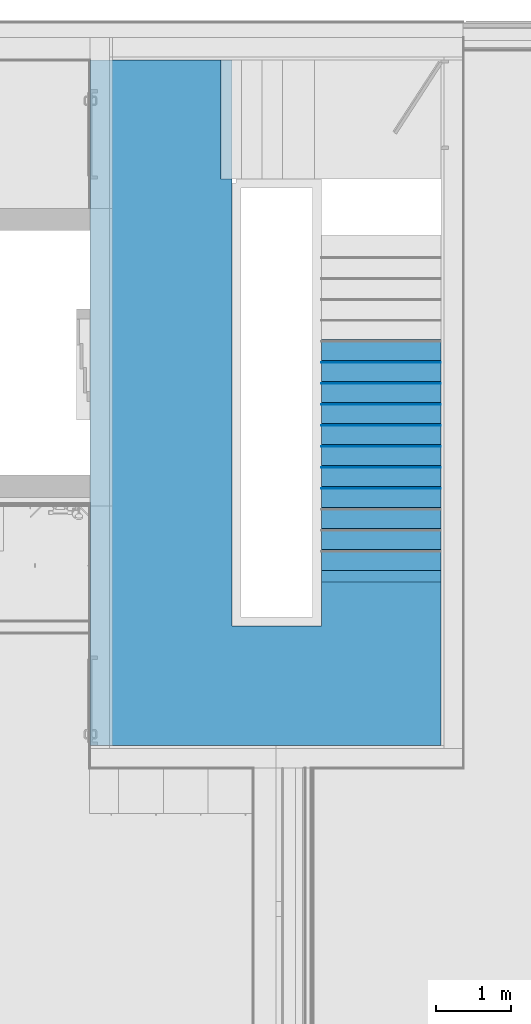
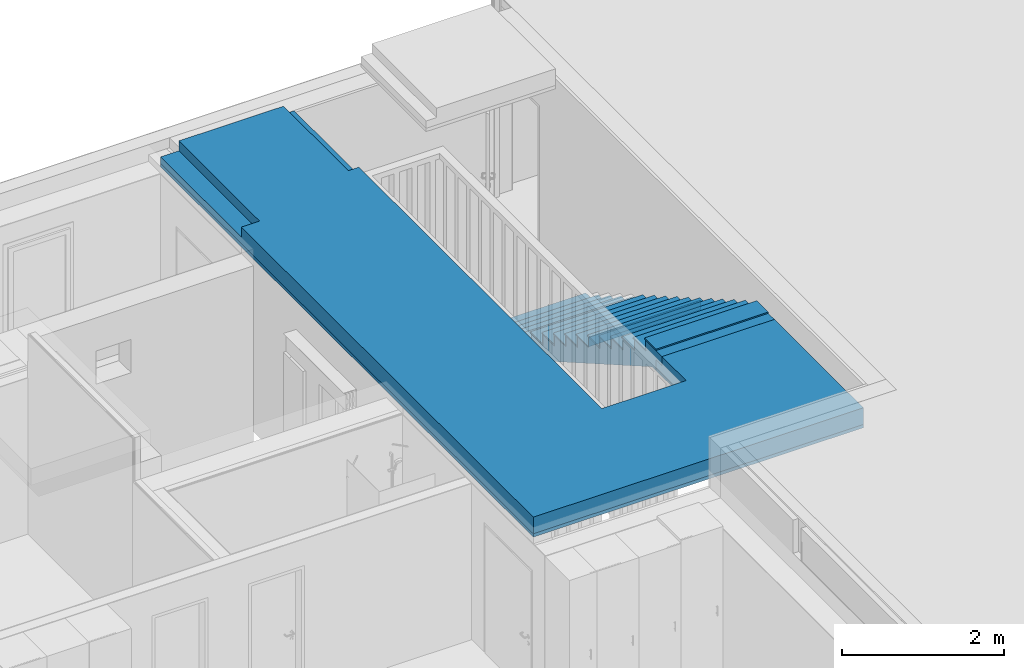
# One storey, part 13 of 34: 21 building element parts, 2 elements without a shape of their own.
"""IFC4 building model written with IfcOpenShell, lengths in millimetres."""

from ifc_helpers import new_model, entity, si_unit, converted_unit, derived_unit, direction, frame, origin_with_axes, place, context, subcontext, project, spatial, polygons, material, type_object, element, aggregate, save


model = new_model("IFC4")

# Units and contexts
model_context = context("Model", 3, precision=0.01, world=origin_with_axes(), true_north=direction((0.0, 1.0)))
body_context = subcontext(model_context, "Body", "Model", "MODEL_VIEW")
ifc_project = project(units=[si_unit("LENGTHUNIT", "METRE", prefix="MILLI"), si_unit("AREAUNIT", "SQUARE_METRE"), si_unit("VOLUMEUNIT", "CUBIC_METRE"), converted_unit("PLANEANGLEUNIT", "DEGREE", entity("IfcPlaneAngleMeasure", 0.0174532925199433), si_unit("PLANEANGLEUNIT", "RADIAN"), dimensions=[0, 0, 0, 0, 0, 0, 0]), converted_unit("TIMEUNIT", "Year", entity("IfcTimeMeasure", 31557600.0), si_unit("TIMEUNIT", "SECOND"), dimensions=[0, 0, 1, 0, 0, 0, 0]), si_unit("MASSUNIT", "GRAM", prefix="KILO"), si_unit("THERMODYNAMICTEMPERATUREUNIT", "DEGREE_CELSIUS"), si_unit("LUMINOUSINTENSITYUNIT", "LUMEN"), si_unit("ENERGYUNIT", "JOULE", prefix="MEGA"), derived_unit("THERMALCONDUCTANCEUNIT", [(si_unit("POWERUNIT", "WATT"), 1), (si_unit("LENGTHUNIT", "METRE"), -1), (si_unit("THERMODYNAMICTEMPERATUREUNIT", "KELVIN"), -1)]), derived_unit("SPECIFICHEATCAPACITYUNIT", [(si_unit("ENERGYUNIT", "JOULE"), 1), (si_unit("MASSUNIT", "GRAM", prefix="KILO"), -1), (si_unit("THERMODYNAMICTEMPERATUREUNIT", "KELVIN"), -1)]), derived_unit("MASSDENSITYUNIT", [(si_unit("MASSUNIT", "GRAM", prefix="KILO"), 1), (si_unit("VOLUMEUNIT", "CUBIC_METRE"), -1)])], contexts=[model_context])

# Site, building, storey
site_placement = place(None, origin_with_axes())
site = spatial("IfcSite", under=ifc_project, at=site_placement, Name="Gelände", CompositionType="ELEMENT")
building_placement = place(site_placement, origin_with_axes())
building = spatial("IfcBuilding", under=site, at=building_placement, Name="Gebäude", CompositionType="ELEMENT")
storey_placement = place(building_placement, frame((0.0, 0.0, 5799.999999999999), z_axis=(0.0, 0.0, 1.0), x_axis=(1.0, 0.0, 0.0)))
storey = spatial("IfcBuildingStorey", under=building, at=storey_placement, Name="2.OG", CompositionType="ELEMENT", Elevation=5800.0)

# Stair, building element parts
stair_type = type_object("IfcStairType", Name="Treppentyp", PredefinedType="NOTDEFINED")
stair_placement = place(storey_placement, frame((20128.99743772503, 35092.59728131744, 650.0000000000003), z_axis=(0.0, 0.0, 1.0), x_axis=(1.0, 0.0, 0.0)))
stair = element("IfcStair", 1, at=stair_placement, inside=storey, type_object=stair_type, Name="Treppe-001", PredefinedType="NOTDEFINED")
ifc_material_1 = material(Name="Beton bewehrt")
building_element_part_1_placement = place(stair_placement, origin_with_axes())
building_element_part_1 = element("IfcBuildingElementPart", 2, at=building_element_part_1_placement, material=ifc_material_1, Name="Beton bewehrt", PredefinedType="NOTDEFINED", context=body_context, shape_type="Tessellation", body=[
    polygons([(0.0, -4500.000000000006, 2260.0), (0.0, -4500.000000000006, 2100.0), (0.0, -4408.961873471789, 2100.0), (0.0, -4406.250000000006, 2098.444389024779), (0.0, -4312.500000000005, 2044.666611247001), (0.0, -4218.750000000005, 1990.888833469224), (0.0, -4125.000000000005, 1937.111055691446), (0.0, -4031.250000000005, 1883.333277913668), (0.0, -3937.500000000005, 1829.555500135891), (0.0, -3843.750000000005, 1775.777722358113), (0.0, -3750.000000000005, 1721.999944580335), (0.0, -3656.250000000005, 1668.222166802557), (0.0, -3562.500000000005, 1614.44438902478), (0.0, -3468.750000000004, 1560.666611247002), (0.0, -3375.000000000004, 1506.888833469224), (0.0, -3281.250000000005, 1453.111055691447), (0.0, -3187.500000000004, 1399.333277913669), (0.0, -3093.750000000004, 1345.555500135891), (0.0, -3000.000000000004, 1291.777722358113), (0.0, -2906.250000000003, 1237.999944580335), (0.0, -2812.500000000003, 1184.222166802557), (0.0, -2718.750000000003, 1130.444389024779), (0.0, -2625.000000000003, 1076.666611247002), (0.0, -2531.250000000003, 1022.888833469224), (0.0, -2437.500000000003, 969.1110556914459), (0.0, -2343.750000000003, 915.3332779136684), (0.0, -2250.000000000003, 861.5555001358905), (0.0, -2156.250000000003, 807.7777223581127), (0.0, -2062.500000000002, 753.999944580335), (0.0, -1968.750000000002, 700.222166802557), (0.0, -1875.000000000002, 646.4443890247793), (0.0, -1781.250000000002, 592.6666112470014), (0.0, -1687.500000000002, 538.8888334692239), (0.0, -1593.750000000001, 485.1110556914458), (0.0, -1500.000000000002, 431.333277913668), (0.0, -1406.250000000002, 377.5555001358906), (0.0, -1312.500000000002, 323.7777223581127), (0.0, -1218.750000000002, 269.9999445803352), (0.0, -1125.000000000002, 216.2221668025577), (0.0, -1031.250000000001, 162.4443890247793), (0.0, -937.5000000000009, 108.6666112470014), (0.0, -843.7500000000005, 54.88883346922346), (0.0, -750.0000000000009, 1.111055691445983), (0.0, -656.2500000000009, -52.6667220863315), (0.0, -562.5000000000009, -106.4444998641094), (0.0, -468.7500000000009, -160.2222776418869), (0.0, -375.0, -214.0000554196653), (0.0, -281.25, -267.7778331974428), (0.0, -190.2118734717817, -320.0000000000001), (0.0, -149.99999403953, -320.0000000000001), (0.0, -149.99999403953, -139.9999999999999), (0.0, 5.960469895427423e-06, -139.9999999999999), (0.0, 0.0, -20.00000000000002), (0.0, -311.2500000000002, -20.00000000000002), (0.0, -311.2500000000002, 141.3333333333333), (0.0, -592.5000000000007, 141.3333333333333), (0.0, -592.5000000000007, 302.6666666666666), (0.0, -873.7500000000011, 302.6666666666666), (0.0, -873.7500000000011, 463.9999999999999), (0.0, -1155.000000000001, 463.9999999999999), (0.0, -1155.000000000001, 625.3333333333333), (0.0, -1436.250000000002, 625.3333333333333), (0.0, -1436.250000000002, 786.6666666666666), (0.0, -1717.500000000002, 786.6666666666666), (0.0, -1717.500000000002, 948.0), (0.0, -1998.750000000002, 948.0), (0.0, -1998.750000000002, 1109.333333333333), (0.0, -2280.000000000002, 1109.333333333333), (0.0, -2280.000000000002, 1270.666666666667), (0.0, -2561.250000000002, 1270.666666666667), (0.0, -2561.250000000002, 1432.0), (0.0, -2842.500000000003, 1432.0), (0.0, -2842.500000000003, 1593.333333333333), (0.0, -3123.750000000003, 1593.333333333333), (0.0, -3123.750000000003, 1754.666666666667), (0.0, -3405.000000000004, 1754.666666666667), (0.0, -3405.000000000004, 1916.0), (0.0, -3686.250000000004, 1916.0), (0.0, -3686.250000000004, 2077.333333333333), (0.0, -3967.500000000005, 2077.333333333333), (0.0, -3967.500000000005, 2238.666666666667), (0.0, -4248.750000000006, 2238.666666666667), (0.0, -4248.750000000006, 2400.0), (0.0, -4650.000000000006, 2400.0), (0.0, -4650.000000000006, 2260.0), (-1600.0, -4500.000000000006, 2260.0), (-1600.0, -4500.000000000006, 2100.0), (-1600.0, -4408.961873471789, 2100.0), (-1600.0, -4406.250000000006, 2098.444389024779), (-1600.0, -4312.500000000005, 2044.666611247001), (-1600.0, -4218.750000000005, 1990.888833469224), (-1600.0, -4125.000000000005, 1937.111055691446), (-1600.0, -4031.250000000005, 1883.333277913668), (-1600.0, -3937.500000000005, 1829.555500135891), (-1600.0, -3843.750000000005, 1775.777722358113), (-1600.0, -3750.000000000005, 1721.999944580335), (-1600.0, -3656.250000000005, 1668.222166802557), (-1600.0, -3562.500000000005, 1614.44438902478), (-1600.0, -3468.750000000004, 1560.666611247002), (-1600.0, -3375.000000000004, 1506.888833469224), (-1600.0, -3281.250000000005, 1453.111055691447), (-1600.0, -3187.500000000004, 1399.333277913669), (-1600.0, -3093.750000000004, 1345.555500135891), (-1600.0, -3000.000000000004, 1291.777722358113), (-1600.0, -2906.250000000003, 1237.999944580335), (-1600.0, -2812.500000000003, 1184.222166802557), (-1600.0, -2718.750000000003, 1130.444389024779), (-1600.0, -2625.000000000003, 1076.666611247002), (-1600.0, -2531.250000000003, 1022.888833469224), (-1600.0, -2437.500000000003, 969.1110556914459), (-1600.0, -2343.750000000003, 915.3332779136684), (-1600.0, -2250.000000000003, 861.5555001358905), (-1600.0, -2156.250000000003, 807.7777223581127), (-1600.0, -2062.500000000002, 753.999944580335), (-1600.0, -1968.750000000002, 700.222166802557), (-1600.0, -1875.000000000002, 646.4443890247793), (-1600.0, -1781.250000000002, 592.6666112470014), (-1600.0, -1687.500000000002, 538.8888334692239), (-1600.0, -1593.750000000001, 485.1110556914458), (-1600.0, -1500.000000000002, 431.333277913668), (-1600.0, -1406.250000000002, 377.5555001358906), (-1600.0, -1312.500000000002, 323.7777223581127), (-1600.0, -1218.750000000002, 269.9999445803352), (-1600.0, -1125.000000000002, 216.2221668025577), (-1600.0, -1031.250000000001, 162.4443890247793), (-1600.0, -937.5000000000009, 108.6666112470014), (-1600.0, -843.7500000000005, 54.88883346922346), (-1600.0, -750.0000000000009, 1.111055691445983), (-1600.0, -656.2500000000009, -52.6667220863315), (-1600.0, -562.5000000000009, -106.4444998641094), (-1600.0, -468.7500000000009, -160.2222776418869), (-1600.0, -375.0, -214.0000554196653), (-1600.0, -281.25, -267.7778331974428), (-1600.0, -190.2118734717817, -320.0000000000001), (-1600.0, -149.99999403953, -320.0000000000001), (-1600.0, -149.99999403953, -139.9999999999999), (-1600.0, 5.960469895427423e-06, -139.9999999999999), (-1600.0, 0.0, -20.00000000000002), (-1600.0, -311.2500000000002, -20.00000000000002), (-1600.0, -311.2500000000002, 141.3333333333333), (-1600.0, -592.5000000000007, 141.3333333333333), (-1600.0, -592.5000000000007, 302.6666666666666), (-1600.0, -873.7500000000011, 302.6666666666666), (-1600.0, -873.7500000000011, 463.9999999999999), (-1600.0, -1155.000000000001, 463.9999999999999), (-1600.0, -1155.000000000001, 625.3333333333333), (-1600.0, -1436.250000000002, 625.3333333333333), (-1600.0, -1436.250000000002, 786.6666666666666), (-1600.0, -1717.500000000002, 786.6666666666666), (-1600.0, -1717.500000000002, 948.0), (-1600.0, -1998.750000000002, 948.0), (-1600.0, -1998.750000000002, 1109.333333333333), (-1600.0, -2280.000000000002, 1109.333333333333), (-1600.0, -2280.000000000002, 1270.666666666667), (-1600.0, -2561.250000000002, 1270.666666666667), (-1600.0, -2561.250000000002, 1432.0), (-1600.0, -2842.500000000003, 1432.0), (-1600.0, -2842.500000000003, 1593.333333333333), (-1600.0, -3123.750000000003, 1593.333333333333), (-1600.0, -3123.750000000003, 1754.666666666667), (-1600.0, -3405.000000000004, 1754.666666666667), (-1600.0, -3405.000000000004, 1916.0), (-1600.0, -3686.250000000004, 1916.0), (-1600.0, -3686.250000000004, 2077.333333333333), (-1600.0, -3967.500000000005, 2077.333333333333), (-1600.0, -3967.500000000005, 2238.666666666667), (-1600.0, -4248.750000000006, 2238.666666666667), (-1600.0, -4248.750000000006, 2400.0), (-1600.0, -4650.000000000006, 2400.0), (-1600.0, -4650.000000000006, 2260.0)], [[[1, 2, 3, 4, 5, 6, 7, 8, 9, 10, 11, 12, 13, 14, 15, 16, 17, 18, 19, 20, 21, 22, 23, 24, 25, 26, 27, 28, 29, 30, 31, 32, 33, 34, 35, 36, 37, 38, 39, 40, 41, 42, 43, 44, 45, 46, 47, 48, 49, 50, 51, 52, 53, 54, 55, 56, 57, 58, 59, 60, 61, 62, 63, 64, 65, 66, 67, 68, 69, 70, 71, 72, 73, 74, 75, 76, 77, 78, 79, 80, 81, 82, 83, 84, 85]], [[2, 1, 86, 87]], [[2, 87, 88, 3]], [[88, 89, 4, 3]], [[90, 5, 4, 89]], [[91, 6, 5, 90]], [[92, 7, 6, 91]], [[93, 8, 7, 92]], [[94, 9, 8, 93]], [[95, 10, 9, 94]], [[96, 11, 10, 95]], [[97, 12, 11, 96]], [[98, 13, 12, 97]], [[99, 14, 13, 98]], [[100, 15, 14, 99]], [[101, 16, 15, 100]], [[102, 17, 16, 101]], [[103, 18, 17, 102]], [[104, 19, 18, 103]], [[105, 20, 19, 104]], [[106, 21, 20, 105]], [[107, 22, 21, 106]], [[108, 23, 22, 107]], [[109, 24, 23, 108]], [[110, 25, 24, 109]], [[111, 26, 25, 110]], [[112, 27, 26, 111]], [[113, 28, 27, 112]], [[114, 29, 28, 113]], [[115, 30, 29, 114]], [[116, 31, 30, 115]], [[117, 32, 31, 116]], [[118, 33, 32, 117]], [[119, 34, 33, 118]], [[120, 35, 34, 119]], [[121, 36, 35, 120]], [[122, 37, 36, 121]], [[123, 38, 37, 122]], [[124, 39, 38, 123]], [[125, 40, 39, 124]], [[126, 41, 40, 125]], [[127, 42, 41, 126]], [[128, 43, 42, 127]], [[129, 44, 43, 128]], [[130, 45, 44, 129]], [[131, 46, 45, 130]], [[132, 47, 46, 131]], [[133, 48, 47, 132]], [[134, 49, 48, 133]], [[135, 50, 49, 134]], [[51, 50, 135, 136]], [[137, 52, 51, 136]], [[52, 137, 138, 53]], [[138, 139, 54, 53]], [[140, 55, 54, 139]], [[140, 141, 56, 55]], [[142, 57, 56, 141]], [[142, 143, 58, 57]], [[144, 59, 58, 143]], [[144, 145, 60, 59]], [[146, 61, 60, 145]], [[146, 147, 62, 61]], [[148, 63, 62, 147]], [[148, 149, 64, 63]], [[150, 65, 64, 149]], [[150, 151, 66, 65]], [[152, 67, 66, 151]], [[152, 153, 68, 67]], [[154, 69, 68, 153]], [[154, 155, 70, 69]], [[156, 71, 70, 155]], [[156, 157, 72, 71]], [[158, 73, 72, 157]], [[158, 159, 74, 73]], [[160, 75, 74, 159]], [[160, 161, 76, 75]], [[162, 77, 76, 161]], [[162, 163, 78, 77]], [[164, 79, 78, 163]], [[164, 165, 80, 79]], [[166, 81, 80, 165]], [[166, 167, 82, 81]], [[83, 82, 167, 168]], [[83, 168, 169, 84]], [[170, 85, 84, 169]], [[1, 85, 170, 86]], [[86, 170, 169, 168, 167, 166, 165, 164, 163, 162, 161, 160, 159, 158, 157, 156, 155, 154, 153, 152, 151, 150, 149, 148, 147, 146, 145, 144, 143, 142, 141, 140, 139, 138, 137, 136, 135, 134, 133, 132, 131, 130, 129, 128, 127, 126, 125, 124, 123, 122, 121, 120, 119, 118, 117, 116, 115, 114, 113, 112, 111, 110, 109, 108, 107, 106, 105, 104, 103, 102, 101, 100, 99, 98, 97, 96, 95, 94, 93, 92, 91, 90, 89, 88, 87]]], closed=True),
])
ifc_material_2 = material(Name="Keramik")
building_element_part_2_placement = place(stair_placement, origin_with_axes())
building_element_part_2 = element("IfcBuildingElementPart", 3, at=building_element_part_2_placement, material=ifc_material_2, Name="Keramik", PredefinedType="NOTDEFINED", context=body_context, shape_type="Tessellation", body=[
    polygons([(-1600.000000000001, -1707.500000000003, 948.0000000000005), (-1600.000000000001, -1717.500000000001, 948.0000000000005), (0.0, -1717.500000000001, 948.0000000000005), (0.0, -1707.500000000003, 948.0000000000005), (-1600.000000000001, -1707.500000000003, 806.6666666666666), (-1600.000000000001, -1717.500000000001, 806.6666666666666), (0.0, -1717.500000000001, 806.6666666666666), (0.0, -1707.500000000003, 806.6666666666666)], [[[1, 2, 3, 4]], [[1, 5, 6, 2]], [[2, 6, 7, 3]], [[4, 3, 7, 8]], [[5, 1, 4, 8]], [[6, 5, 8, 7]]], closed=True),
])
building_element_part_3_placement = place(stair_placement, origin_with_axes())
building_element_part_3 = element("IfcBuildingElementPart", 4, at=building_element_part_3_placement, material=ifc_material_2, Name="Keramik", PredefinedType="NOTDEFINED", context=body_context, shape_type="Tessellation", body=[
    polygons([(-1600.000000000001, -1988.750000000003, 1109.333333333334), (-1600.000000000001, -1998.750000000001, 1109.333333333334), (0.0, -1998.750000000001, 1109.333333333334), (0.0, -1988.750000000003, 1109.333333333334), (-1600.000000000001, -1988.750000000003, 968.0), (-1600.000000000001, -1998.750000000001, 968.0), (0.0, -1998.750000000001, 968.0), (0.0, -1988.750000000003, 968.0)], [[[1, 2, 3, 4]], [[1, 5, 6, 2]], [[2, 6, 7, 3]], [[4, 3, 7, 8]], [[5, 1, 4, 8]], [[6, 5, 8, 7]]], closed=True),
])
building_element_part_4_placement = place(stair_placement, origin_with_axes())
building_element_part_4 = element("IfcBuildingElementPart", 5, at=building_element_part_4_placement, material=ifc_material_2, Name="Keramik", PredefinedType="NOTDEFINED", context=body_context, shape_type="Tessellation", body=[
    polygons([(-1600.000000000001, -2270.000000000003, 1270.666666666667), (-1600.000000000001, -2280.000000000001, 1270.666666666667), (0.0, -2280.000000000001, 1270.666666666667), (0.0, -2270.000000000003, 1270.666666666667), (-1600.000000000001, -2270.000000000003, 1129.333333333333), (-1600.000000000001, -2280.000000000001, 1129.333333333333), (0.0, -2280.000000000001, 1129.333333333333), (0.0, -2270.000000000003, 1129.333333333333)], [[[1, 2, 3, 4]], [[1, 5, 6, 2]], [[2, 6, 7, 3]], [[4, 3, 7, 8]], [[5, 1, 4, 8]], [[6, 5, 8, 7]]], closed=True),
])
building_element_part_5_placement = place(stair_placement, origin_with_axes())
building_element_part_5 = element("IfcBuildingElementPart", 6, at=building_element_part_5_placement, material=ifc_material_2, Name="Keramik", PredefinedType="NOTDEFINED", context=body_context, shape_type="Tessellation", body=[
    polygons([(-1600.000000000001, -2551.250000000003, 1432.0), (-1600.000000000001, -2561.250000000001, 1432.0), (0.0, -2561.250000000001, 1432.0), (0.0, -2551.250000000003, 1432.0), (-1600.000000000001, -2551.250000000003, 1290.666666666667), (-1600.000000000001, -2561.250000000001, 1290.666666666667), (0.0, -2561.250000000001, 1290.666666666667), (0.0, -2551.250000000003, 1290.666666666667)], [[[1, 2, 3, 4]], [[1, 5, 6, 2]], [[2, 6, 7, 3]], [[4, 3, 7, 8]], [[5, 1, 4, 8]], [[6, 5, 8, 7]]], closed=True),
])
building_element_part_6_placement = place(stair_placement, origin_with_axes())
building_element_part_6 = element("IfcBuildingElementPart", 7, at=building_element_part_6_placement, material=ifc_material_2, Name="Keramik", PredefinedType="NOTDEFINED", context=body_context, shape_type="Tessellation", body=[
    polygons([(-1600.000000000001, -3113.750000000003, 1754.666666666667), (-1600.000000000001, -3123.750000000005, 1754.666666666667), (0.0, -3123.750000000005, 1754.666666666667), (0.0, -3113.750000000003, 1754.666666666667), (-1600.000000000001, -3113.750000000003, 1613.333333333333), (-1600.000000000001, -3123.750000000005, 1613.333333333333), (0.0, -3123.750000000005, 1613.333333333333), (0.0, -3113.750000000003, 1613.333333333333)], [[[1, 2, 3, 4]], [[1, 5, 6, 2]], [[2, 6, 7, 3]], [[4, 3, 7, 8]], [[5, 1, 4, 8]], [[6, 5, 8, 7]]], closed=True),
])
building_element_part_7_placement = place(stair_placement, origin_with_axes())
building_element_part_7 = element("IfcBuildingElementPart", 8, at=building_element_part_7_placement, material=ifc_material_2, Name="Keramik", PredefinedType="NOTDEFINED", context=body_context, shape_type="Tessellation", body=[
    polygons([(-1600.000000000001, -2832.500000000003, 1593.333333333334), (-1600.000000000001, -2842.500000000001, 1593.333333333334), (0.0, -2842.500000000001, 1593.333333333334), (0.0, -2832.500000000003, 1593.333333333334), (-1600.000000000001, -2832.500000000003, 1452.0), (-1600.000000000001, -2842.500000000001, 1452.0), (0.0, -2842.500000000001, 1452.0), (0.0, -2832.500000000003, 1452.0)], [[[1, 2, 3, 4]], [[1, 5, 6, 2]], [[2, 6, 7, 3]], [[4, 3, 7, 8]], [[5, 1, 4, 8]], [[6, 5, 8, 7]]], closed=True),
])
building_element_part_8_placement = place(stair_placement, origin_with_axes())
building_element_part_8 = element("IfcBuildingElementPart", 9, at=building_element_part_8_placement, material=ifc_material_2, Name="Keramik", PredefinedType="NOTDEFINED", context=body_context, shape_type="Tessellation", body=[
    polygons([(-1600.000000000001, -3395.000000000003, 1916.0), (-1600.000000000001, -3405.000000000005, 1916.0), (0.0, -3405.000000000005, 1916.0), (0.0, -3395.000000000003, 1916.0), (-1600.000000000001, -3395.000000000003, 1774.666666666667), (-1600.000000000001, -3405.000000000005, 1774.666666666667), (0.0, -3405.000000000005, 1774.666666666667), (0.0, -3395.000000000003, 1774.666666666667)], [[[1, 2, 3, 4]], [[1, 5, 6, 2]], [[2, 6, 7, 3]], [[4, 3, 7, 8]], [[5, 1, 4, 8]], [[6, 5, 8, 7]]], closed=True),
])
building_element_part_9_placement = place(stair_placement, origin_with_axes())
building_element_part_9 = element("IfcBuildingElementPart", 10, at=building_element_part_9_placement, material=ifc_material_2, Name="Keramik", PredefinedType="NOTDEFINED", context=body_context, shape_type="Tessellation", body=[
    polygons([(0.0, -1406.25, 786.6666666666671), (-1600.000000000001, -1406.25, 786.6666666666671), (-1600.000000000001, -1406.25, 806.6666666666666), (0.0, -1406.25, 806.6666666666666), (0.0, -1717.500000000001, 786.6666666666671), (-1600.000000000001, -1717.500000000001, 786.6666666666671), (-1600.000000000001, -1717.500000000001, 806.6666666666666), (0.0, -1717.500000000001, 806.6666666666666)], [[[1, 2, 3, 4]], [[1, 5, 6, 2]], [[2, 6, 7, 3]], [[4, 3, 7, 8]], [[5, 1, 4, 8]], [[6, 5, 8, 7]]], closed=True),
])
building_element_part_10_placement = place(stair_placement, origin_with_axes())
building_element_part_10 = element("IfcBuildingElementPart", 11, at=building_element_part_10_placement, material=ifc_material_2, Name="Keramik", PredefinedType="NOTDEFINED", context=body_context, shape_type="Tessellation", body=[
    polygons([(0.0, -1687.5, 948.0000000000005), (-1600.000000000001, -1687.5, 948.0000000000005), (-1600.000000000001, -1687.5, 968.0), (0.0, -1687.5, 968.0), (0.0, -1998.750000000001, 948.0000000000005), (-1600.000000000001, -1998.750000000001, 948.0000000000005), (-1600.000000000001, -1998.750000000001, 968.0), (0.0, -1998.750000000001, 968.0)], [[[1, 2, 3, 4]], [[1, 5, 6, 2]], [[2, 6, 7, 3]], [[4, 3, 7, 8]], [[5, 1, 4, 8]], [[6, 5, 8, 7]]], closed=True),
])
building_element_part_11_placement = place(stair_placement, origin_with_axes())
building_element_part_11 = element("IfcBuildingElementPart", 12, at=building_element_part_11_placement, material=ifc_material_2, Name="Keramik", PredefinedType="NOTDEFINED", context=body_context, shape_type="Tessellation", body=[
    polygons([(0.0, -1968.75, 1109.333333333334), (-1600.000000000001, -1968.75, 1109.333333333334), (-1600.000000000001, -1968.75, 1129.333333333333), (0.0, -1968.75, 1129.333333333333), (0.0, -2280.000000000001, 1109.333333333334), (-1600.000000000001, -2280.000000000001, 1109.333333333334), (-1600.000000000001, -2280.000000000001, 1129.333333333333), (0.0, -2280.000000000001, 1129.333333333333)], [[[1, 2, 3, 4]], [[1, 5, 6, 2]], [[2, 6, 7, 3]], [[4, 3, 7, 8]], [[5, 1, 4, 8]], [[6, 5, 8, 7]]], closed=True),
])
building_element_part_12_placement = place(stair_placement, origin_with_axes())
building_element_part_12 = element("IfcBuildingElementPart", 13, at=building_element_part_12_placement, material=ifc_material_2, Name="Keramik", PredefinedType="NOTDEFINED", context=body_context, shape_type="Tessellation", body=[
    polygons([(0.0, -2531.25, 1432.0), (-1600.000000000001, -2531.25, 1432.0), (-1600.000000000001, -2531.25, 1452.0), (0.0, -2531.25, 1452.0), (0.0, -2842.500000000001, 1432.0), (-1600.000000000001, -2842.500000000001, 1432.0), (-1600.000000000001, -2842.500000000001, 1452.0), (0.0, -2842.500000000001, 1452.0)], [[[1, 2, 3, 4]], [[1, 5, 6, 2]], [[2, 6, 7, 3]], [[4, 3, 7, 8]], [[5, 1, 4, 8]], [[6, 5, 8, 7]]], closed=True),
])
building_element_part_13_placement = place(stair_placement, origin_with_axes())
building_element_part_13 = element("IfcBuildingElementPart", 14, at=building_element_part_13_placement, material=ifc_material_2, Name="Keramik", PredefinedType="NOTDEFINED", context=body_context, shape_type="Tessellation", body=[
    polygons([(0.0, -2812.5, 1593.333333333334), (-1600.000000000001, -2812.5, 1593.333333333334), (-1600.000000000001, -2812.5, 1613.333333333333), (0.0, -2812.5, 1613.333333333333), (0.0, -3123.750000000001, 1593.333333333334), (-1600.000000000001, -3123.750000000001, 1593.333333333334), (-1600.000000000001, -3123.750000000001, 1613.333333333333), (0.0, -3123.750000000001, 1613.333333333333)], [[[1, 2, 3, 4]], [[1, 5, 6, 2]], [[2, 6, 7, 3]], [[4, 3, 7, 8]], [[5, 1, 4, 8]], [[6, 5, 8, 7]]], closed=True),
])
building_element_part_14_placement = place(stair_placement, origin_with_axes())
building_element_part_14 = element("IfcBuildingElementPart", 15, at=building_element_part_14_placement, material=ifc_material_2, Name="Keramik", PredefinedType="NOTDEFINED", context=body_context, shape_type="Tessellation", body=[
    polygons([(0.0, -2250.0, 1270.666666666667), (-1600.000000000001, -2250.0, 1270.666666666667), (-1600.000000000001, -2250.0, 1290.666666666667), (0.0, -2250.0, 1290.666666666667), (0.0, -2561.250000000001, 1270.666666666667), (-1600.000000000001, -2561.250000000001, 1270.666666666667), (-1600.000000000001, -2561.250000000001, 1290.666666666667), (0.0, -2561.250000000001, 1290.666666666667)], [[[1, 2, 3, 4]], [[1, 5, 6, 2]], [[2, 6, 7, 3]], [[4, 3, 7, 8]], [[5, 1, 4, 8]], [[6, 5, 8, 7]]], closed=True),
])
building_element_part_15_placement = place(stair_placement, origin_with_axes())
building_element_part_15 = element("IfcBuildingElementPart", 16, at=building_element_part_15_placement, material=ifc_material_2, Name="Keramik", PredefinedType="NOTDEFINED", context=body_context, shape_type="Tessellation", body=[
    polygons([(0.0, -3375.000000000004, 1916.0), (-1600.000000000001, -3375.000000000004, 1916.0), (-1600.000000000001, -3375.000000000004, 1936.0), (0.0, -3375.000000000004, 1936.0), (0.0, -3686.250000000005, 1916.0), (-1600.000000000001, -3686.250000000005, 1916.0), (-1600.000000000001, -3686.250000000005, 1936.0), (0.0, -3686.250000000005, 1936.0)], [[[1, 2, 3, 4]], [[1, 5, 6, 2]], [[2, 6, 7, 3]], [[4, 3, 7, 8]], [[5, 1, 4, 8]], [[6, 5, 8, 7]]], closed=True),
])
building_element_part_16_placement = place(stair_placement, origin_with_axes())
building_element_part_16 = element("IfcBuildingElementPart", 17, at=building_element_part_16_placement, material=ifc_material_2, Name="Keramik", PredefinedType="NOTDEFINED", context=body_context, shape_type="Tessellation", body=[
    polygons([(0.0, -3656.250000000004, 2077.333333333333), (-1600.000000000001, -3656.250000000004, 2077.333333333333), (-1600.000000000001, -3656.250000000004, 2097.333333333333), (0.0, -3656.250000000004, 2097.333333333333), (0.0, -3967.500000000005, 2077.333333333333), (-1600.000000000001, -3967.500000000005, 2077.333333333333), (-1600.000000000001, -3967.500000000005, 2097.333333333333), (0.0, -3967.500000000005, 2097.333333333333)], [[[1, 2, 3, 4]], [[1, 5, 6, 2]], [[2, 6, 7, 3]], [[4, 3, 7, 8]], [[5, 1, 4, 8]], [[6, 5, 8, 7]]], closed=True),
])
building_element_part_17_placement = place(stair_placement, origin_with_axes())
building_element_part_17 = element("IfcBuildingElementPart", 18, at=building_element_part_17_placement, material=ifc_material_2, Name="Keramik", PredefinedType="NOTDEFINED", context=body_context, shape_type="Tessellation", body=[
    polygons([(0.0, -3937.500000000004, 2238.666666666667), (-1600.000000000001, -3937.500000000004, 2238.666666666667), (-1600.000000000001, -3937.500000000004, 2258.666666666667), (0.0, -3937.500000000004, 2258.666666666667), (0.0, -4248.750000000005, 2238.666666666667), (-1600.000000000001, -4248.750000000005, 2238.666666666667), (-1600.000000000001, -4248.750000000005, 2258.666666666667), (0.0, -4248.750000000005, 2258.666666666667)], [[[1, 2, 3, 4]], [[1, 5, 6, 2]], [[2, 6, 7, 3]], [[4, 3, 7, 8]], [[5, 1, 4, 8]], [[6, 5, 8, 7]]], closed=True),
])
building_element_part_18_placement = place(stair_placement, origin_with_axes())
building_element_part_18 = element("IfcBuildingElementPart", 19, at=building_element_part_18_placement, material=ifc_material_2, Name="Keramik", PredefinedType="NOTDEFINED", context=body_context, shape_type="Tessellation", body=[
    polygons([(0.0, -3093.750000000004, 1754.666666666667), (-1600.000000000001, -3093.750000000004, 1754.666666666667), (-1600.000000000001, -3093.750000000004, 1774.666666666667), (0.0, -3093.750000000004, 1774.666666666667), (0.0, -3405.000000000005, 1754.666666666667), (-1600.000000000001, -3405.000000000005, 1754.666666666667), (-1600.000000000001, -3405.000000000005, 1774.666666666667), (0.0, -3405.000000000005, 1774.666666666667)], [[[1, 2, 3, 4]], [[1, 5, 6, 2]], [[2, 6, 7, 3]], [[4, 3, 7, 8]], [[5, 1, 4, 8]], [[6, 5, 8, 7]]], closed=True),
])
building_element_part_19_placement = place(stair_placement, origin_with_axes())
building_element_part_19 = element("IfcBuildingElementPart", 20, at=building_element_part_19_placement, material=ifc_material_2, Name="Keramik", PredefinedType="NOTDEFINED", context=body_context, shape_type="Tessellation", body=[
    polygons([(0.0, -4218.750000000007, 2400.0), (-1600.000000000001, -4218.750000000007, 2400.0), (-1600.000000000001, -4218.750000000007, 2420.0), (0.0, -4218.750000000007, 2420.0), (0.0, -4500.000000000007, 2400.0), (-1600.000000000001, -4500.000000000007, 2400.0), (-1600.000000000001, -4500.000000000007, 2420.0), (0.0, -4500.000000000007, 2420.0)], [[[1, 2, 3, 4]], [[1, 5, 6, 2]], [[2, 6, 7, 3]], [[4, 3, 7, 8]], [[5, 1, 4, 8]], [[6, 5, 8, 7]]], closed=True),
])
aggregate(stair, [building_element_part_1, building_element_part_2, building_element_part_3, building_element_part_4, building_element_part_5, building_element_part_6, building_element_part_7, building_element_part_8, building_element_part_9, building_element_part_10, building_element_part_11, building_element_part_12, building_element_part_13, building_element_part_14, building_element_part_15, building_element_part_16, building_element_part_17, building_element_part_18, building_element_part_19])

# Plate, building element parts
plate_type = type_object("IfcPlateType", Name="Podest Typ 01 300", PredefinedType="NOTDEFINED")
plate_placement = place(storey_placement, frame((15428.99744477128, 37437.59728330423, 3050.000000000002), z_axis=(0.0, 0.0, 1.0), x_axis=(1.0, 0.0, 0.0)))
plate = element("IfcPlate", 21, at=plate_placement, inside=storey, type_object=plate_type, Name="Deckennr.-073", PredefinedType="NOTDEFINED")
ifc_material_3 = material(Name="Sichtbeton")
building_element_part_20_placement = place(plate_placement, origin_with_axes())
building_element_part_20 = element("IfcBuildingElementPart", 22, at=building_element_part_20_placement, material=ifc_material_3, Name="Sichtbeton", PredefinedType="NOTDEFINED", context=body_context, shape_type="Tessellation", body=[
    polygons([(0.0, 0.0, -250.0000000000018), (0.0, 0.0, -300.0000000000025), (0.0, -9190.000001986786, -300.0000000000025), (0.0, -9190.000001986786, -250.0000000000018), (1900.000000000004, 0.0, -250.0000000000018), (1900.000000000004, 0.0, -300.0000000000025), (1900.000000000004, -7590.000001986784, -300.0000000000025), (3099.999992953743, -7590.000001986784, -300.0000000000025), (3099.999992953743, -6845.000001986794, -300.0000000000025), (4699.999992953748, -6845.000001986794, -300.0000000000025), (4699.999992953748, -9190.000001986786, -300.0000000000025), (4699.999992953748, -9190.000001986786, -250.0000000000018), (4699.999992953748, -6845.000001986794, -250.0000000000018), (3099.999992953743, -6845.000001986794, -250.0000000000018), (3099.999992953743, -7590.000001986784, -250.0000000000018), (1900.000000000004, -7590.000001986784, -250.0000000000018)], [[[1, 2, 3, 4]], [[5, 6, 2, 1]], [[3, 2, 6, 7, 8, 9, 10, 11]], [[4, 3, 11, 12]], [[5, 1, 4, 12, 13, 14, 15, 16]], [[16, 7, 6, 5]], [[15, 8, 7, 16]], [[14, 9, 8, 15]], [[13, 10, 9, 14]], [[12, 11, 10, 13]]], closed=True),
])
building_element_part_21_placement = place(plate_placement, origin_with_axes())
building_element_part_21 = element("IfcBuildingElementPart", 23, at=building_element_part_21_placement, material=ifc_material_1, Name="Beton bewehrt", PredefinedType="NOTDEFINED", context=body_context, shape_type="Tessellation", body=[
    polygons([(3099.999992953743, -6845.000001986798, -140.0000000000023), (4699.999992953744, -6845.000001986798, -140.0000000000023), (4699.999992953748, -6845.000001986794, -250.0000000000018), (3099.999992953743, -6845.000001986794, -250.0000000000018), (4699.999992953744, -6995.000001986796, -140.0000000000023), (3099.999992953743, -6995.000001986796, -140.0000000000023), (4699.999992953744, -6995.000001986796, 0.0), (4699.999992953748, -9190.000001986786, 0.0), (4699.999992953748, -9190.000001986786, -250.0000000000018), (0.0, -9190.000001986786, -250.0000000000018), (0.0, 0.0, -250.0000000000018), (1900.000000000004, 0.0, -250.0000000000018), (1900.000000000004, -7590.000001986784, -250.0000000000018), (3099.999992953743, -7590.000001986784, -250.0000000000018), (3099.999992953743, -7590.000001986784, 0.0), (3099.999992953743, -6995.000001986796, 0.0), (1900.000000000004, -7590.000001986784, 0.0), (1900.000000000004, -1600.000000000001, 0.0), (1750.000000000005, -1600.000000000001, 0.0), (1750.000000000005, 0.0, 0.0), (260.0000000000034, 0.0, 0.0), (260.0000000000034, -1990.0000019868, 0.0), (0.0, -1990.0000019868, 0.0), (0.0, -9190.000001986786, 0.0), (0.0, -1990.0000019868, -150.0000000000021), (0.0, 0.0, -150.0000000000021), (1750.000000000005, 0.0, -120.000000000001), (1900.000000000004, 0.0, -120.000000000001), (260.0000000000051, 0.0, -150.0000000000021), (1900.000000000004, -1600.000000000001, -120.000000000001), (1750.000000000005, -1600.000000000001, -120.000000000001), (260.0000000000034, -1990.0000019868, -150.0000000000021)], [[[1, 2, 3, 4]], [[5, 2, 1, 6]], [[5, 7, 8, 9, 3, 2]], [[3, 9, 10, 11, 12, 13, 14, 4]], [[6, 1, 4, 14, 15, 16]], [[16, 7, 5, 6]], [[7, 16, 15, 17, 18, 19, 20, 21, 22, 23, 24, 8]], [[8, 24, 10, 9]], [[24, 23, 25, 26, 11, 10]], [[21, 20, 27, 28, 12, 11, 26, 29]], [[28, 30, 18, 17, 13, 12]], [[17, 15, 14, 13]], [[31, 19, 18, 30]], [[31, 27, 20, 19]], [[29, 32, 22, 21]], [[32, 25, 23, 22]], [[25, 32, 29, 26]], [[31, 30, 28, 27]]], closed=True),
])
aggregate(plate, [building_element_part_20, building_element_part_21])

save(model, "model.ifc")
